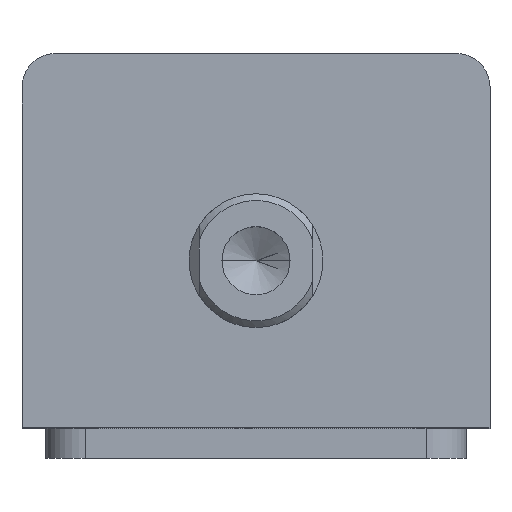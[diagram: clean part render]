
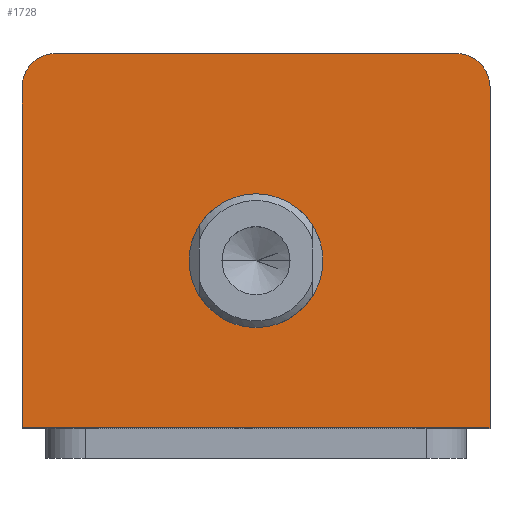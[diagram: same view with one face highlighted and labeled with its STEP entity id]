
A CAD part, top view. The second image highlights one B-rep face of the part: STEP entity #1728.
In plain terms, the highlighted planar face has unit normal (0, 0, 1).
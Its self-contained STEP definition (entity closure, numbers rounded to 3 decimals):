
#5 = CARTESIAN_POINT ( 'NONE',  ( 35., 23., 59. ) ) ;
#27 = CARTESIAN_POINT ( 'NONE',  ( -30., 28., 59. ) ) ;
#39 = CARTESIAN_POINT ( 'NONE',  ( -10., -3., 59. ) ) ;
#53 = CARTESIAN_POINT ( 'NONE',  ( 10., -3., 59. ) ) ;
#59 = CARTESIAN_POINT ( 'NONE',  ( -35., -28., 59. ) ) ;
#63 = CARTESIAN_POINT ( 'NONE',  ( 35., -28., 59. ) ) ;
#76 = CARTESIAN_POINT ( 'NONE',  ( -35., 23., 59. ) ) ;
#80 = CARTESIAN_POINT ( 'NONE',  ( 30., 28., 59. ) ) ;
#213 = VERTEX_POINT ( 'NONE', #80 ) ;
#254 = VERTEX_POINT ( 'NONE', #53 ) ;
#265 = VERTEX_POINT ( 'NONE', #39 ) ;
#272 = VERTEX_POINT ( 'NONE', #27 ) ;
#289 = VERTEX_POINT ( 'NONE', #5 ) ;
#294 = VERTEX_POINT ( 'NONE', #59 ) ;
#306 = VERTEX_POINT ( 'NONE', #63 ) ;
#319 = VERTEX_POINT ( 'NONE', #76 ) ;
#360 = CIRCLE ( 'NONE', #2265, 5. ) ;
#369 = LINE ( 'NONE', #1960, #378 ) ;
#378 = VECTOR ( 'NONE', #2098, 1000. ) ;
#443 = CIRCLE ( 'NONE', #2245, 10. ) ;
#487 = LINE ( 'NONE', #1939, #489 ) ;
#489 = VECTOR ( 'NONE', #1941, 1000. ) ;
#512 = CIRCLE ( 'NONE', #2221, 5. ) ;
#524 = FACE_BOUND ( 'NONE', #1671, .T. ) ;
#536 = FACE_OUTER_BOUND ( 'NONE', #1689, .T. ) ;
#710 = LINE ( 'NONE', #2471, #712 ) ;
#712 = VECTOR ( 'NONE', #2470, 1000. ) ;
#714 = CIRCLE ( 'NONE', #955, 10. ) ;
#955 = AXIS2_PLACEMENT_3D ( 'NONE', #2442, #2440, #2439 ) ;
#1069 = LINE ( 'NONE', #1385, #1071 ) ;
#1071 = VECTOR ( 'NONE', #1384, 1000. ) ;
#1281 = EDGE_CURVE ( 'NONE', #272, #319, #360, .T. ) ;
#1289 = EDGE_CURVE ( 'NONE', #319, #294, #369, .T. ) ;
#1338 = EDGE_CURVE ( 'NONE', #254, #265, #443, .T. ) ;
#1365 = EDGE_CURVE ( 'NONE', #213, #272, #487, .T. ) ;
#1383 = EDGE_CURVE ( 'NONE', #289, #213, #512, .T. ) ;
#1384 = DIRECTION ( 'NONE',  ( 0., 1., 0. ) ) ;
#1385 = CARTESIAN_POINT ( 'NONE',  ( 35., 28., 59. ) ) ;
#1671 = EDGE_LOOP ( 'NONE', ( #2812, #2813 ) ) ;
#1689 = EDGE_LOOP ( 'NONE', ( #2814, #2815, #2816, #2817, #2818, #2819 ) ) ;
#1728 = ADVANCED_FACE ( 'NONE', ( #524, #536 ), #1830, .T. ) ;
#1817 = DIRECTION ( 'NONE',  ( 1., 0., 0. ) ) ;
#1820 = DIRECTION ( 'NONE',  ( 1., 0., 0. ) ) ;
#1821 = DIRECTION ( 'NONE',  ( 0., 0., 1. ) ) ;
#1822 = DIRECTION ( 'NONE',  ( 0., 0., 1. ) ) ;
#1825 = CARTESIAN_POINT ( 'NONE',  ( 0., -3., 59. ) ) ;
#1827 = CARTESIAN_POINT ( 'NONE',  ( 0., 0., 59. ) ) ;
#1830 = PLANE ( 'NONE',  #2209 ) ;
#1870 = DIRECTION ( 'NONE',  ( 1., 0., 0. ) ) ;
#1871 = DIRECTION ( 'NONE',  ( 0., 0., 1. ) ) ;
#1872 = CARTESIAN_POINT ( 'NONE',  ( 30., 23., 59. ) ) ;
#1939 = CARTESIAN_POINT ( 'NONE',  ( -35., 28., 59. ) ) ;
#1941 = DIRECTION ( 'NONE',  ( -1., 0., 0. ) ) ;
#1960 = CARTESIAN_POINT ( 'NONE',  ( -35., 28., 59. ) ) ;
#2098 = DIRECTION ( 'NONE',  ( 0., -1., 0. ) ) ;
#2104 = DIRECTION ( 'NONE',  ( 1., 0., 0. ) ) ;
#2108 = DIRECTION ( 'NONE',  ( 0., 0., 1. ) ) ;
#2110 = CARTESIAN_POINT ( 'NONE',  ( -30., 23., 59. ) ) ;
#2209 = AXIS2_PLACEMENT_3D ( 'NONE', #1827, #1822, #1820 ) ;
#2221 = AXIS2_PLACEMENT_3D ( 'NONE', #1872, #1871, #1870 ) ;
#2245 = AXIS2_PLACEMENT_3D ( 'NONE', #1825, #1821, #1817 ) ;
#2265 = AXIS2_PLACEMENT_3D ( 'NONE', #2110, #2108, #2104 ) ;
#2296 = EDGE_CURVE ( 'NONE', #294, #306, #710, .T. ) ;
#2299 = EDGE_CURVE ( 'NONE', #265, #254, #714, .T. ) ;
#2360 = EDGE_CURVE ( 'NONE', #306, #289, #1069, .T. ) ;
#2439 = DIRECTION ( 'NONE',  ( 1., 0., 0. ) ) ;
#2440 = DIRECTION ( 'NONE',  ( 0., 0., 1. ) ) ;
#2442 = CARTESIAN_POINT ( 'NONE',  ( 0., -3., 59. ) ) ;
#2470 = DIRECTION ( 'NONE',  ( 1., 0., 0. ) ) ;
#2471 = CARTESIAN_POINT ( 'NONE',  ( -35., -28., 59. ) ) ;
#2812 = ORIENTED_EDGE ( 'NONE', *, *, #1338, .F. ) ;
#2813 = ORIENTED_EDGE ( 'NONE', *, *, #2299, .F. ) ;
#2814 = ORIENTED_EDGE ( 'NONE', *, *, #2360, .T. ) ;
#2815 = ORIENTED_EDGE ( 'NONE', *, *, #1383, .T. ) ;
#2816 = ORIENTED_EDGE ( 'NONE', *, *, #1365, .T. ) ;
#2817 = ORIENTED_EDGE ( 'NONE', *, *, #1281, .T. ) ;
#2818 = ORIENTED_EDGE ( 'NONE', *, *, #1289, .T. ) ;
#2819 = ORIENTED_EDGE ( 'NONE', *, *, #2296, .T. ) ;
